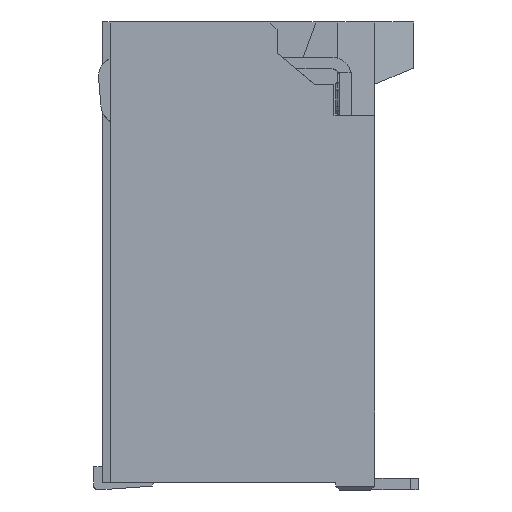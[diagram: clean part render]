
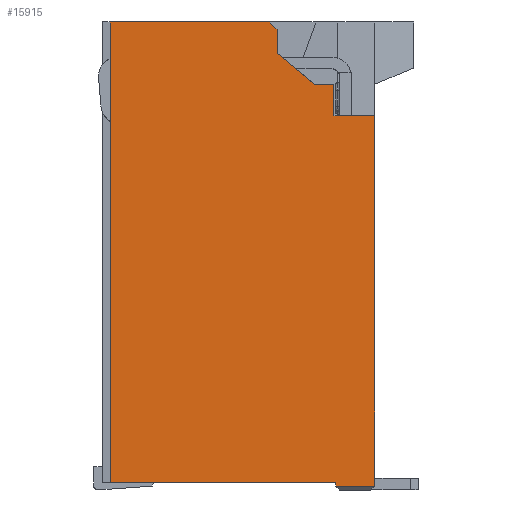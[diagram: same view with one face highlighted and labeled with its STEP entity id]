
A CAD part, front view. The second image highlights one B-rep face of the part: STEP entity #15915.
In plain terms, the highlighted planar face has unit normal (0, -1, 0).
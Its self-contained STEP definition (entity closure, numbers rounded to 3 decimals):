
#256 = VECTOR ( 'NONE', #22801, 1000. ) ;
#648 = CARTESIAN_POINT ( 'NONE',  ( 0.15, -10.2, 3.35 ) ) ;
#896 = DIRECTION ( 'NONE',  ( 1., 0., 0. ) ) ;
#1447 = VECTOR ( 'NONE', #28712, 1000. ) ;
#1696 = EDGE_CURVE ( 'NONE', #2516, #8711, #27524, .T. ) ;
#1904 = CARTESIAN_POINT ( 'NONE',  ( 2.895, -10.2, 2.55 ) ) ;
#1952 = CARTESIAN_POINT ( 'NONE',  ( 3.54, -10.2, -2.6 ) ) ;
#2007 = LINE ( 'NONE', #11310, #12241 ) ;
#2105 = EDGE_CURVE ( 'NONE', #2682, #7731, #24896, .T. ) ;
#2248 = DIRECTION ( 'NONE',  ( 0.768, 0., -0.64 ) ) ;
#2516 = VERTEX_POINT ( 'NONE', #3994 ) ;
#2682 = VERTEX_POINT ( 'NONE', #14909 ) ;
#2706 = VECTOR ( 'NONE', #2248, 1000. ) ;
#3266 = ORIENTED_EDGE ( 'NONE', *, *, #12595, .T. ) ;
#3994 = CARTESIAN_POINT ( 'NONE',  ( 2.29, -10.2, 3.25 ) ) ;
#4306 = VERTEX_POINT ( 'NONE', #1952 ) ;
#4318 = EDGE_CURVE ( 'NONE', #8711, #26843, #9262, .T. ) ;
#5567 = CARTESIAN_POINT ( 'NONE',  ( 3.02, -10.2, 2.35 ) ) ;
#6037 = DIRECTION ( 'NONE',  ( 0., 0., -1. ) ) ;
#6041 = LINE ( 'NONE', #1904, #23950 ) ;
#6697 = CARTESIAN_POINT ( 'NONE',  ( 3.54, -10.2, 2.15 ) ) ;
#7192 = ORIENTED_EDGE ( 'NONE', *, *, #18848, .F. ) ;
#7550 = VECTOR ( 'NONE', #24601, 1000. ) ;
#7584 = EDGE_CURVE ( 'NONE', #27646, #12920, #24035, .T. ) ;
#7656 = VERTEX_POINT ( 'NONE', #26036 ) ;
#7731 = VERTEX_POINT ( 'NONE', #24193 ) ;
#7820 = EDGE_CURVE ( 'NONE', #27646, #26223, #27381, .T. ) ;
#8121 = CARTESIAN_POINT ( 'NONE',  ( 2.24, -10.2, 3.3 ) ) ;
#8164 = DIRECTION ( 'NONE',  ( 0., 0., 1. ) ) ;
#8377 = ORIENTED_EDGE ( 'NONE', *, *, #7820, .T. ) ;
#8711 = VERTEX_POINT ( 'NONE', #29743 ) ;
#9262 = LINE ( 'NONE', #23279, #2706 ) ;
#9531 = LINE ( 'NONE', #14407, #25708 ) ;
#10254 = ORIENTED_EDGE ( 'NONE', *, *, #13719, .F. ) ;
#10288 = LINE ( 'NONE', #19898, #1447 ) ;
#10513 = ORIENTED_EDGE ( 'NONE', *, *, #7584, .F. ) ;
#10604 = CARTESIAN_POINT ( 'NONE',  ( 0., -10.2, 0. ) ) ;
#11053 = CARTESIAN_POINT ( 'NONE',  ( 3.04, -10.2, -2.575 ) ) ;
#11172 = ORIENTED_EDGE ( 'NONE', *, *, #2105, .F. ) ;
#11209 = DIRECTION ( 'NONE',  ( 1., 0., 0. ) ) ;
#11288 = EDGE_CURVE ( 'NONE', #26223, #7731, #9531, .T. ) ;
#11310 = CARTESIAN_POINT ( 'NONE',  ( 3.29, -10.2, -2.6 ) ) ;
#11636 = CARTESIAN_POINT ( 'NONE',  ( 2.19, -10.2, 3.35 ) ) ;
#11865 = VECTOR ( 'NONE', #21828, 1000. ) ;
#12241 = VECTOR ( 'NONE', #20606, 1000. ) ;
#12595 = EDGE_CURVE ( 'NONE', #7656, #27493, #24300, .T. ) ;
#12920 = VERTEX_POINT ( 'NONE', #11636 ) ;
#13048 = FACE_OUTER_BOUND ( 'NONE', #14581, .T. ) ;
#13468 = ORIENTED_EDGE ( 'NONE', *, *, #24228, .F. ) ;
#13526 = CARTESIAN_POINT ( 'NONE',  ( 2.29, -10.2, 3.1 ) ) ;
#13719 = EDGE_CURVE ( 'NONE', #7656, #24719, #10288, .T. ) ;
#14407 = CARTESIAN_POINT ( 'NONE',  ( 1.595, -10.2, -2.55 ) ) ;
#14581 = EDGE_LOOP ( 'NONE', ( #21162, #11172, #24861, #16713, #10254, #3266, #7192, #28555, #29490, #13468, #10513, #8377 ) ) ;
#14909 = CARTESIAN_POINT ( 'NONE',  ( 3.04, -10.2, -2.6 ) ) ;
#15151 = AXIS2_PLACEMENT_3D ( 'NONE', #10604, #19902, #6037 ) ;
#15394 = VECTOR ( 'NONE', #22670, 1000. ) ;
#15915 = ADVANCED_FACE ( 'NONE', ( #13048 ), #20042, .T. ) ;
#16438 = EDGE_CURVE ( 'NONE', #4306, #2682, #2007, .T. ) ;
#16713 = ORIENTED_EDGE ( 'NONE', *, *, #26739, .T. ) ;
#18848 = EDGE_CURVE ( 'NONE', #26843, #27493, #6041, .T. ) ;
#19851 = CARTESIAN_POINT ( 'NONE',  ( 3.54, -10.2, -0.225 ) ) ;
#19898 = CARTESIAN_POINT ( 'NONE',  ( 3.28, -10.2, 2.15 ) ) ;
#19902 = DIRECTION ( 'NONE',  ( 0., -1., 0. ) ) ;
#20042 = PLANE ( 'NONE',  #15151 ) ;
#20606 = DIRECTION ( 'NONE',  ( -1., 0., 0. ) ) ;
#20960 = DIRECTION ( 'NONE',  ( 1., 0., 0. ) ) ;
#21162 = ORIENTED_EDGE ( 'NONE', *, *, #11288, .T. ) ;
#21408 = CARTESIAN_POINT ( 'NONE',  ( 0.15, -10.2, -2.55 ) ) ;
#21601 = CARTESIAN_POINT ( 'NONE',  ( 3.02, -10.2, 2.55 ) ) ;
#21828 = DIRECTION ( 'NONE',  ( 0., 0., 1. ) ) ;
#22568 = CARTESIAN_POINT ( 'NONE',  ( 2.77, -10.2, 2.55 ) ) ;
#22670 = DIRECTION ( 'NONE',  ( 0., 0., -1. ) ) ;
#22801 = DIRECTION ( 'NONE',  ( 0., 0., -1. ) ) ;
#22955 = CARTESIAN_POINT ( 'NONE',  ( 0.15, -10.2, 0.4 ) ) ;
#23279 = CARTESIAN_POINT ( 'NONE',  ( 2.53, -10.2, 2.75 ) ) ;
#23950 = VECTOR ( 'NONE', #11209, 1000. ) ;
#24035 = LINE ( 'NONE', #28309, #25635 ) ;
#24193 = CARTESIAN_POINT ( 'NONE',  ( 3.04, -10.2, -2.55 ) ) ;
#24228 = EDGE_CURVE ( 'NONE', #12920, #2516, #26839, .T. ) ;
#24251 = LINE ( 'NONE', #19851, #11865 ) ;
#24300 = LINE ( 'NONE', #5567, #29099 ) ;
#24601 = DIRECTION ( 'NONE',  ( 0., 0., 1. ) ) ;
#24719 = VERTEX_POINT ( 'NONE', #6697 ) ;
#24861 = ORIENTED_EDGE ( 'NONE', *, *, #16438, .F. ) ;
#24896 = LINE ( 'NONE', #11053, #7550 ) ;
#25635 = VECTOR ( 'NONE', #896, 1000. ) ;
#25708 = VECTOR ( 'NONE', #20960, 1000. ) ;
#26036 = CARTESIAN_POINT ( 'NONE',  ( 3.02, -10.2, 2.15 ) ) ;
#26223 = VERTEX_POINT ( 'NONE', #21408 ) ;
#26434 = VECTOR ( 'NONE', #26702, 1000. ) ;
#26702 = DIRECTION ( 'NONE',  ( 0.707, 0., -0.707 ) ) ;
#26739 = EDGE_CURVE ( 'NONE', #4306, #24719, #24251, .T. ) ;
#26839 = LINE ( 'NONE', #8121, #26434 ) ;
#26843 = VERTEX_POINT ( 'NONE', #22568 ) ;
#27381 = LINE ( 'NONE', #22955, #15394 ) ;
#27493 = VERTEX_POINT ( 'NONE', #21601 ) ;
#27524 = LINE ( 'NONE', #13526, #256 ) ;
#27646 = VERTEX_POINT ( 'NONE', #648 ) ;
#28309 = CARTESIAN_POINT ( 'NONE',  ( 1.17, -10.2, 3.35 ) ) ;
#28555 = ORIENTED_EDGE ( 'NONE', *, *, #4318, .F. ) ;
#28712 = DIRECTION ( 'NONE',  ( 1., 0., 0. ) ) ;
#29099 = VECTOR ( 'NONE', #8164, 1000. ) ;
#29490 = ORIENTED_EDGE ( 'NONE', *, *, #1696, .F. ) ;
#29743 = CARTESIAN_POINT ( 'NONE',  ( 2.29, -10.2, 2.95 ) ) ;
